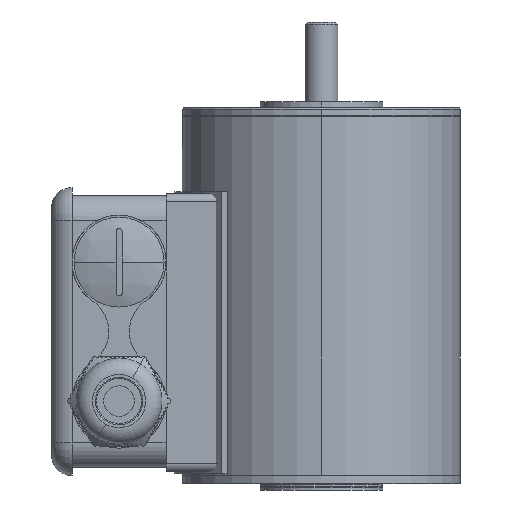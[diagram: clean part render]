
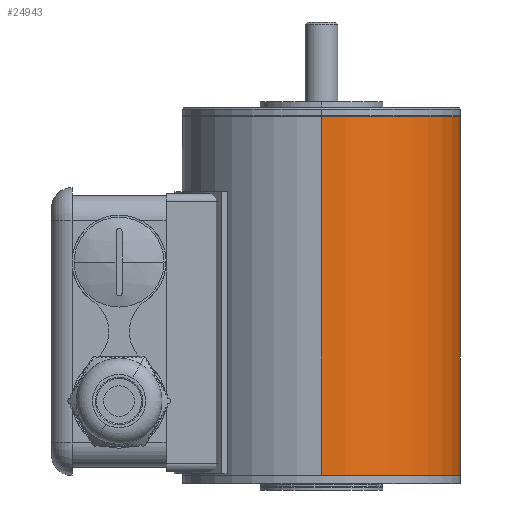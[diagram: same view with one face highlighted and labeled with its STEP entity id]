
A CAD part, front view. The second image highlights one B-rep face of the part: STEP entity #24943.
In plain terms, the highlighted cylindrical face has radius 34 mm (diameter 68 mm), a partial arc.
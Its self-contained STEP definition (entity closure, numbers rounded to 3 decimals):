
#19452 = CARTESIAN_POINT ( 'NONE',  ( 34., 0., -87.9 ) ) ;
#19495 = CARTESIAN_POINT ( 'NONE',  ( -34., 0., -87.9 ) ) ;
#19562 = CARTESIAN_POINT ( 'NONE',  ( 34., 0., -0.1 ) ) ;
#19723 = CARTESIAN_POINT ( 'NONE',  ( -34., 0., -0.1 ) ) ;
#19841 = CARTESIAN_POINT ( 'NONE',  ( 0., 0., -0.1 ) ) ;
#19842 = AXIS2_PLACEMENT_3D ( 'NONE', #19841, #20052, #20051 ) ;
#19989 = CIRCLE ( 'NONE', #19842, 34. ) ;
#20051 = DIRECTION ( 'NONE',  ( 1., 0., 0. ) ) ;
#20052 = DIRECTION ( 'NONE',  ( 0., 0., 1. ) ) ;
#20213 = CYLINDRICAL_SURFACE ( 'NONE', #20325, 34. ) ;
#20216 = CIRCLE ( 'NONE', #20298, 34. ) ;
#20224 = FACE_OUTER_BOUND ( 'NONE', #24874, .T. ) ;
#20225 = CARTESIAN_POINT ( 'NONE',  ( 0., 0., 8.166 ) ) ;
#20265 = CARTESIAN_POINT ( 'NONE',  ( 0., 0., -87.9 ) ) ;
#20268 = DIRECTION ( 'NONE',  ( 1., 0., 0. ) ) ;
#20271 = DIRECTION ( 'NONE',  ( 0., 0., 1. ) ) ;
#20297 = DIRECTION ( 'NONE',  ( 1., 0., 0. ) ) ;
#20298 = AXIS2_PLACEMENT_3D ( 'NONE', #20265, #20314, #20297 ) ;
#20314 = DIRECTION ( 'NONE',  ( 0., 0., 1. ) ) ;
#20315 = DIRECTION ( 'NONE',  ( 0., 0., 1. ) ) ;
#20316 = VECTOR ( 'NONE', #20315, 1000. ) ;
#20323 = CARTESIAN_POINT ( 'NONE',  ( 34., 0., 8.166 ) ) ;
#20324 = LINE ( 'NONE', #20323, #20316 ) ;
#20325 = AXIS2_PLACEMENT_3D ( 'NONE', #20225, #20271, #20268 ) ;
#20469 = CARTESIAN_POINT ( 'NONE',  ( -34., 0., 8.166 ) ) ;
#20470 = LINE ( 'NONE', #20469, #20489 ) ;
#20488 = DIRECTION ( 'NONE',  ( 0., 0., 1. ) ) ;
#20489 = VECTOR ( 'NONE', #20488, 1000. ) ;
#24571 = VERTEX_POINT ( 'NONE', #19452 ) ;
#24597 = VERTEX_POINT ( 'NONE', #19495 ) ;
#24611 = VERTEX_POINT ( 'NONE', #19562 ) ;
#24653 = VERTEX_POINT ( 'NONE', #19723 ) ;
#24659 = ORIENTED_EDGE ( 'NONE', *, *, #24958, .F. ) ;
#24661 = ORIENTED_EDGE ( 'NONE', *, *, #24924, .T. ) ;
#24662 = ORIENTED_EDGE ( 'NONE', *, *, #24944, .T. ) ;
#24664 = ORIENTED_EDGE ( 'NONE', *, *, #24746, .F. ) ;
#24746 = EDGE_CURVE ( 'NONE', #24653, #24611, #19989, .T. ) ;
#24874 = EDGE_LOOP ( 'NONE', ( #24659, #24662, #24661, #24664 ) ) ;
#24924 = EDGE_CURVE ( 'NONE', #24571, #24611, #20324, .T. ) ;
#24943 = ADVANCED_FACE ( 'NONE', ( #20224 ), #20213, .T. ) ;
#24944 = EDGE_CURVE ( 'NONE', #24597, #24571, #20216, .T. ) ;
#24958 = EDGE_CURVE ( 'NONE', #24597, #24653, #20470, .T. ) ;
